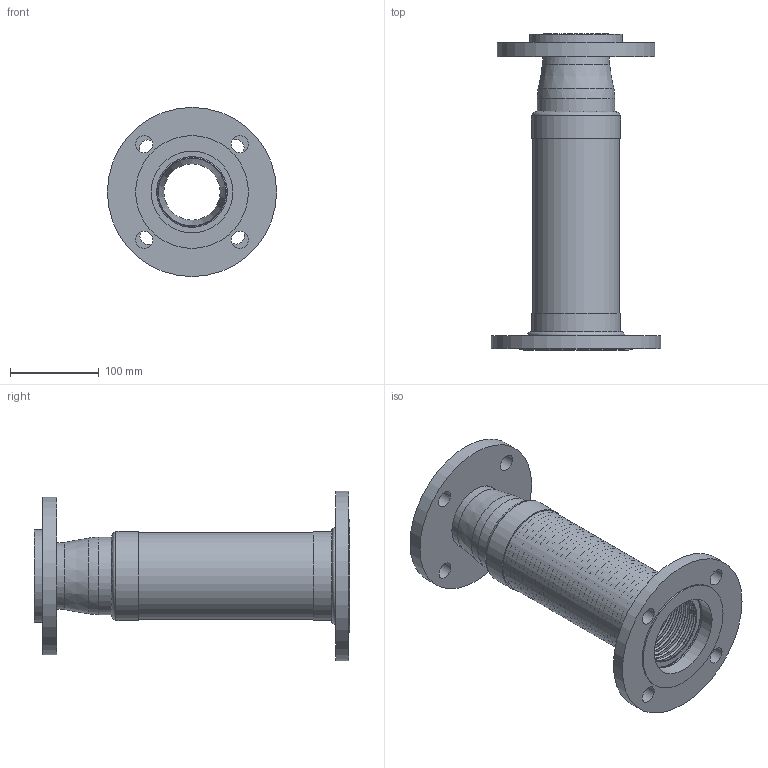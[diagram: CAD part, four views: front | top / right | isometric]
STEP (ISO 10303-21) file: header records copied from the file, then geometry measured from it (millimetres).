
FILE_DESCRIPTION((''),'2;1');
FILE_NAME('C:\2012_Work\Designs\RFFL\RFFL-3x2.5in.stp','2013-08-19T14:05:53',('KShiels'),(''),'Autodesk Inventor 2012','Autodesk Inventor 2012','');
FILE_SCHEMA(('AUTOMOTIVE_DESIGN { 1 0 10303 214 1 1 1 1 }'));
Length unit declared in the file: inch
Products named in the file (9): RFFL-3x2; RFFL-3x2_Welds; A-30993_3in_RFFL-BRAID; A-30993_3in_RFFL-BELLOWS; A-30993_3in_RFFL-BRAID-COLLAR; A-30988_3in-FIXED-FLANGE; A-30989_2; A-30991_3x2; A-30990_2
Assembly tree (9 placements, depth 2):
  RFFL-3x2
    RFFL-3x2_Welds
    A-30993_3in_RFFL-BRAID
    A-30993_3in_RFFL-BELLOWS
    A-30993_3in_RFFL-BRAID-COLLAR  x2
    A-30988_3in-FIXED-FLANGE
    A-30989_2
    A-30991_3x2
    A-30990_2
Bounding box: 190.5 x 355.76 x 190.5 mm (x, y, z)
Volume: 915374.7 mm3; surface area: 850829.7 mm2
Topology: 11 solids, 11 shells, 356 faces, 571 edges, 383 vertices
Faces by surface type: plane 168, torus 151, cylinder 28, cone 5, bspline 4
Full cylindrical faces by diameter (mm): 19.05 x8, 63.5 x1, 73.812 x1, 76.2 x4, 87.173 x2, 92.075 x1, 97.028 x1, 97.841 x3, 100.222 x3, 104.775 x1, 127 x1, 177.8 x1, 190.5 x1
Entity records: 8414 total; most frequent: CARTESIAN_POINT 2007, DIRECTION 1440, ORIENTED_EDGE 738, AXIS2_PLACEMENT_3D 720, EDGE_LOOP 717, EDGE_CURVE 369, VERTEX_POINT 366, FACE_BOUND 365
